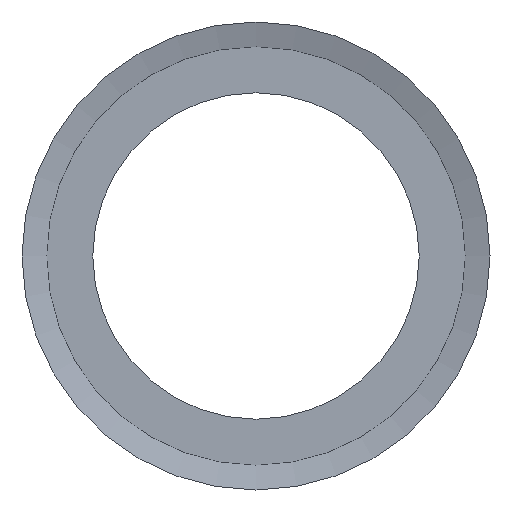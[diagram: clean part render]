
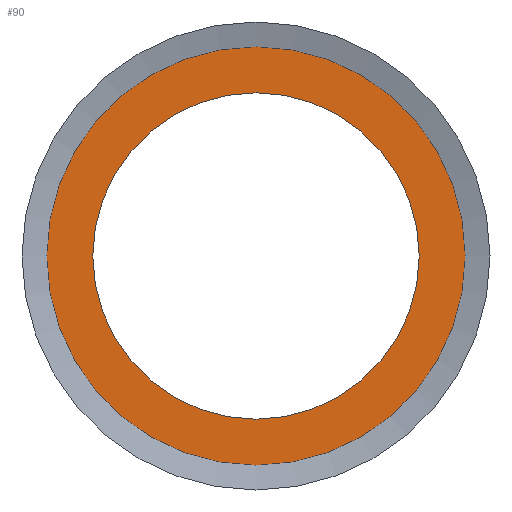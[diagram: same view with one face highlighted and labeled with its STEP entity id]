
A CAD part, left-side view. The second image highlights one B-rep face of the part: STEP entity #90.
In plain terms, the highlighted planar face has unit normal (-1, 0, 0).
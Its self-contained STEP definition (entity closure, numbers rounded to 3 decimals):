
#15=FACE_BOUND('',#31,.T.);
#17=PLANE('',#123);
#24=FACE_OUTER_BOUND('',#30,.T.);
#30=EDGE_LOOP('',(#77));
#31=EDGE_LOOP('',(#78));
#46=CIRCLE('',#122,17.);
#47=CIRCLE('',#124,13.25);
#52=VERTEX_POINT('',#170);
#53=VERTEX_POINT('',#174);
#61=EDGE_CURVE('',#52,#52,#46,.T.);
#62=EDGE_CURVE('',#53,#53,#47,.T.);
#77=ORIENTED_EDGE('',*,*,#61,.T.);
#78=ORIENTED_EDGE('',*,*,#62,.F.);
#90=ADVANCED_FACE('',(#24,#15),#17,.T.);
#122=AXIS2_PLACEMENT_3D('',#172,#145,#146);
#123=AXIS2_PLACEMENT_3D('',#173,#147,#148);
#124=AXIS2_PLACEMENT_3D('',#175,#149,#150);
#145=DIRECTION('center_axis',(-1.,0.,0.));
#146=DIRECTION('ref_axis',(0.,0.,1.));
#147=DIRECTION('center_axis',(-1.,0.,0.));
#148=DIRECTION('ref_axis',(0.,0.,1.));
#149=DIRECTION('center_axis',(-1.,0.,0.));
#150=DIRECTION('ref_axis',(0.,0.,1.));
#170=CARTESIAN_POINT('',(-0.5,-17.,0.));
#172=CARTESIAN_POINT('Origin',(-0.5,0.,
0.));
#173=CARTESIAN_POINT('Origin',(-0.5,13.25,0.));
#174=CARTESIAN_POINT('',(-0.5,-13.25,0.));
#175=CARTESIAN_POINT('Origin',(-0.5,0.,
0.));
